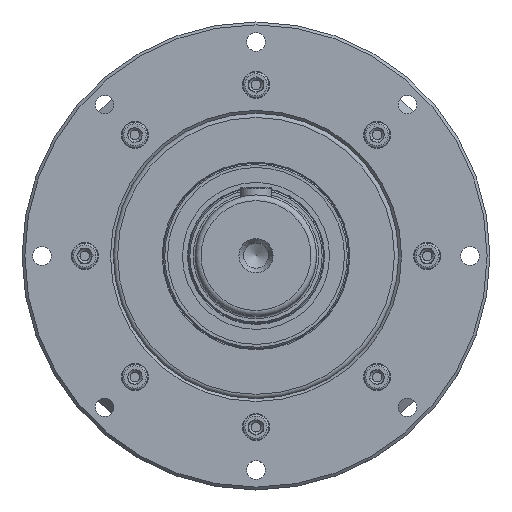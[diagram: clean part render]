
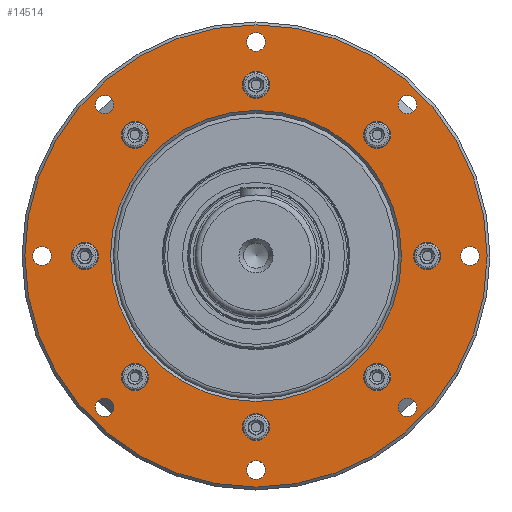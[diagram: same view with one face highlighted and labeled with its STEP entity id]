
A CAD part, top view. The second image highlights one B-rep face of the part: STEP entity #14514.
In plain terms, the highlighted planar face has unit normal (0, 0, 1).
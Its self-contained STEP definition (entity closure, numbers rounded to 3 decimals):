
#13652=CARTESIAN_POINT('',(-162.,0.,-14.));
#13653=VERTEX_POINT('',#13652);
#13654=CARTESIAN_POINT('',(0.0,0.,-14.));
#13655=DIRECTION('',(0.0,0.0,1.0));
#13656=DIRECTION('',(1.0,0.0,0.0));
#13657=AXIS2_PLACEMENT_3D('',#13654,#13655,#13656);
#13658=CIRCLE('',#13657,162.);
#13659=EDGE_CURVE('',#13653,#13653,#13658,.T.);
#13719=CARTESIAN_POINT('',(102.,0.,-14.));
#13720=VERTEX_POINT('',#13719);
#13721=CARTESIAN_POINT('',(0.0,0.,-14.));
#13722=DIRECTION('',(0.0,0.0,-1.0));
#13723=DIRECTION('',(1.0,0.0,0.0));
#13724=AXIS2_PLACEMENT_3D('',#13721,#13722,#13723);
#13725=CIRCLE('',#13724,102.);
#13726=EDGE_CURVE('',#13720,#13720,#13725,.T.);
#13775=CARTESIAN_POINT('',(9.5,120.0,-14.));
#13776=VERTEX_POINT('',#13775);
#13777=CARTESIAN_POINT('',(0.0,120.0,-14.));
#13778=DIRECTION('',(0.0,0.0,1.0));
#13779=DIRECTION('',(1.0,0.0,0.0));
#13780=AXIS2_PLACEMENT_3D('',#13777,#13778,#13779);
#13781=CIRCLE('',#13780,9.5);
#13782=EDGE_CURVE('',#13776,#13776,#13781,.T.);
#13831=CARTESIAN_POINT('',(9.5,-120.0,-14.));
#13832=VERTEX_POINT('',#13831);
#13833=CARTESIAN_POINT('',(0.0,-120.0,-14.));
#13834=DIRECTION('',(0.0,0.0,1.0));
#13835=DIRECTION('',(1.0,0.0,0.0));
#13836=AXIS2_PLACEMENT_3D('',#13833,#13834,#13835);
#13837=CIRCLE('',#13836,9.5);
#13838=EDGE_CURVE('',#13832,#13832,#13837,.T.);
#13887=CARTESIAN_POINT('',(94.353,84.853,-14.));
#13888=VERTEX_POINT('',#13887);
#13889=CARTESIAN_POINT('',(84.853,84.853,-14.));
#13890=DIRECTION('',(0.0,0.0,1.0));
#13891=DIRECTION('',(1.0,0.0,0.0));
#13892=AXIS2_PLACEMENT_3D('',#13889,#13890,#13891);
#13893=CIRCLE('',#13892,9.5);
#13894=EDGE_CURVE('',#13888,#13888,#13893,.T.);
#13943=CARTESIAN_POINT('',(-75.353,-84.853,-14.));
#13944=VERTEX_POINT('',#13943);
#13945=CARTESIAN_POINT('',(-84.853,-84.853,-14.));
#13946=DIRECTION('',(0.0,0.0,1.0));
#13947=DIRECTION('',(1.0,0.0,0.0));
#13948=AXIS2_PLACEMENT_3D('',#13945,#13946,#13947);
#13949=CIRCLE('',#13948,9.5);
#13950=EDGE_CURVE('',#13944,#13944,#13949,.T.);
#13999=CARTESIAN_POINT('',(129.5,0.,-14.));
#14000=VERTEX_POINT('',#13999);
#14001=CARTESIAN_POINT('',(120.0,0.,-14.));
#14002=DIRECTION('',(0.0,0.0,1.0));
#14003=DIRECTION('',(1.0,0.0,0.0));
#14004=AXIS2_PLACEMENT_3D('',#14001,#14002,#14003);
#14005=CIRCLE('',#14004,9.5);
#14006=EDGE_CURVE('',#14000,#14000,#14005,.T.);
#14055=CARTESIAN_POINT('',(-110.5,0.,-14.));
#14056=VERTEX_POINT('',#14055);
#14057=CARTESIAN_POINT('',(-120.0,0.,-14.));
#14058=DIRECTION('',(0.0,0.0,1.0));
#14059=DIRECTION('',(1.0,0.0,0.0));
#14060=AXIS2_PLACEMENT_3D('',#14057,#14058,#14059);
#14061=CIRCLE('',#14060,9.5);
#14062=EDGE_CURVE('',#14056,#14056,#14061,.T.);
#14111=CARTESIAN_POINT('',(94.353,-84.853,-14.));
#14112=VERTEX_POINT('',#14111);
#14113=CARTESIAN_POINT('',(84.853,-84.853,-14.));
#14114=DIRECTION('',(0.0,0.0,1.0));
#14115=DIRECTION('',(1.0,0.0,0.0));
#14116=AXIS2_PLACEMENT_3D('',#14113,#14114,#14115);
#14117=CIRCLE('',#14116,9.5);
#14118=EDGE_CURVE('',#14112,#14112,#14117,.T.);
#14167=CARTESIAN_POINT('',(-75.353,84.853,-14.));
#14168=VERTEX_POINT('',#14167);
#14169=CARTESIAN_POINT('',(-84.853,84.853,-14.));
#14170=DIRECTION('',(0.0,0.0,1.0));
#14171=DIRECTION('',(1.0,0.0,0.0));
#14172=AXIS2_PLACEMENT_3D('',#14169,#14170,#14171);
#14173=CIRCLE('',#14172,9.5);
#14174=EDGE_CURVE('',#14168,#14168,#14173,.T.);
#14223=CARTESIAN_POINT('',(6.5,150.,-14.));
#14224=VERTEX_POINT('',#14223);
#14225=CARTESIAN_POINT('',(0.0,150.,-14.));
#14226=DIRECTION('',(0.0,0.0,1.0));
#14227=DIRECTION('',(1.0,0.0,0.0));
#14228=AXIS2_PLACEMENT_3D('',#14225,#14226,#14227);
#14229=CIRCLE('',#14228,6.5);
#14230=EDGE_CURVE('',#14224,#14224,#14229,.T.);
#14251=CARTESIAN_POINT('',(6.5,-150.,-14.));
#14252=VERTEX_POINT('',#14251);
#14253=CARTESIAN_POINT('',(0.0,-150.,-14.));
#14254=DIRECTION('',(0.0,0.0,1.0));
#14255=DIRECTION('',(1.0,0.0,0.0));
#14256=AXIS2_PLACEMENT_3D('',#14253,#14254,#14255);
#14257=CIRCLE('',#14256,6.5);
#14258=EDGE_CURVE('',#14252,#14252,#14257,.T.);
#14279=CARTESIAN_POINT('',(112.566,106.066,-14.));
#14280=VERTEX_POINT('',#14279);
#14281=CARTESIAN_POINT('',(106.066,106.066,-14.));
#14282=DIRECTION('',(0.0,0.0,1.0));
#14283=DIRECTION('',(1.0,0.0,0.0));
#14284=AXIS2_PLACEMENT_3D('',#14281,#14282,#14283);
#14285=CIRCLE('',#14284,6.5);
#14286=EDGE_CURVE('',#14280,#14280,#14285,.T.);
#14307=CARTESIAN_POINT('',(-99.566,-106.066,-14.));
#14308=VERTEX_POINT('',#14307);
#14309=CARTESIAN_POINT('',(-106.066,-106.066,-14.));
#14310=DIRECTION('',(0.0,0.0,1.0));
#14311=DIRECTION('',(1.0,0.0,0.0));
#14312=AXIS2_PLACEMENT_3D('',#14309,#14310,#14311);
#14313=CIRCLE('',#14312,6.5);
#14314=EDGE_CURVE('',#14308,#14308,#14313,.T.);
#14335=CARTESIAN_POINT('',(156.5,0.,-14.));
#14336=VERTEX_POINT('',#14335);
#14337=CARTESIAN_POINT('',(150.0,0.,-14.));
#14338=DIRECTION('',(0.0,0.0,1.0));
#14339=DIRECTION('',(1.0,0.0,0.0));
#14340=AXIS2_PLACEMENT_3D('',#14337,#14338,#14339);
#14341=CIRCLE('',#14340,6.5);
#14342=EDGE_CURVE('',#14336,#14336,#14341,.T.);
#14363=CARTESIAN_POINT('',(-143.5,0.,-14.));
#14364=VERTEX_POINT('',#14363);
#14365=CARTESIAN_POINT('',(-150.,0.,-14.));
#14366=DIRECTION('',(0.0,0.0,1.0));
#14367=DIRECTION('',(1.0,0.0,0.0));
#14368=AXIS2_PLACEMENT_3D('',#14365,#14366,#14367);
#14369=CIRCLE('',#14368,6.5);
#14370=EDGE_CURVE('',#14364,#14364,#14369,.T.);
#14391=CARTESIAN_POINT('',(112.566,-106.066,-14.));
#14392=VERTEX_POINT('',#14391);
#14393=CARTESIAN_POINT('',(106.066,-106.066,-14.));
#14394=DIRECTION('',(0.0,0.0,1.0));
#14395=DIRECTION('',(1.0,0.0,0.0));
#14396=AXIS2_PLACEMENT_3D('',#14393,#14394,#14395);
#14397=CIRCLE('',#14396,6.5);
#14398=EDGE_CURVE('',#14392,#14392,#14397,.T.);
#14419=CARTESIAN_POINT('',(-99.566,106.066,-14.));
#14420=VERTEX_POINT('',#14419);
#14421=CARTESIAN_POINT('',(-106.066,106.066,-14.));
#14422=DIRECTION('',(0.0,0.0,1.0));
#14423=DIRECTION('',(1.0,0.0,0.0));
#14424=AXIS2_PLACEMENT_3D('',#14421,#14422,#14423);
#14425=CIRCLE('',#14424,6.5);
#14426=EDGE_CURVE('',#14420,#14420,#14425,.T.);
#14455=CARTESIAN_POINT('',(0.0,0.,-14.));
#14456=DIRECTION('',(0.0,0.0,1.0));
#14457=DIRECTION('',(1.0,0.0,0.0));
#14458=AXIS2_PLACEMENT_3D('',#14455,#14456,#14457);
#14459=PLANE('',#14458);
#14460=ORIENTED_EDGE('',*,*,#13659,.T.);
#14461=EDGE_LOOP('',(#14460));
#14462=FACE_OUTER_BOUND('',#14461,.T.);
#14463=ORIENTED_EDGE('',*,*,#13726,.T.);
#14464=EDGE_LOOP('',(#14463));
#14465=FACE_BOUND('',#14464,.T.);
#14466=ORIENTED_EDGE('',*,*,#13782,.F.);
#14467=EDGE_LOOP('',(#14466));
#14468=FACE_BOUND('',#14467,.T.);
#14469=ORIENTED_EDGE('',*,*,#13838,.F.);
#14470=EDGE_LOOP('',(#14469));
#14471=FACE_BOUND('',#14470,.T.);
#14472=ORIENTED_EDGE('',*,*,#13894,.F.);
#14473=EDGE_LOOP('',(#14472));
#14474=FACE_BOUND('',#14473,.T.);
#14475=ORIENTED_EDGE('',*,*,#13950,.F.);
#14476=EDGE_LOOP('',(#14475));
#14477=FACE_BOUND('',#14476,.T.);
#14478=ORIENTED_EDGE('',*,*,#14006,.F.);
#14479=EDGE_LOOP('',(#14478));
#14480=FACE_BOUND('',#14479,.T.);
#14481=ORIENTED_EDGE('',*,*,#14062,.F.);
#14482=EDGE_LOOP('',(#14481));
#14483=FACE_BOUND('',#14482,.T.);
#14484=ORIENTED_EDGE('',*,*,#14118,.F.);
#14485=EDGE_LOOP('',(#14484));
#14486=FACE_BOUND('',#14485,.T.);
#14487=ORIENTED_EDGE('',*,*,#14174,.F.);
#14488=EDGE_LOOP('',(#14487));
#14489=FACE_BOUND('',#14488,.T.);
#14490=ORIENTED_EDGE('',*,*,#14230,.F.);
#14491=EDGE_LOOP('',(#14490));
#14492=FACE_BOUND('',#14491,.T.);
#14493=ORIENTED_EDGE('',*,*,#14258,.F.);
#14494=EDGE_LOOP('',(#14493));
#14495=FACE_BOUND('',#14494,.T.);
#14496=ORIENTED_EDGE('',*,*,#14286,.F.);
#14497=EDGE_LOOP('',(#14496));
#14498=FACE_BOUND('',#14497,.T.);
#14499=ORIENTED_EDGE('',*,*,#14314,.F.);
#14500=EDGE_LOOP('',(#14499));
#14501=FACE_BOUND('',#14500,.T.);
#14502=ORIENTED_EDGE('',*,*,#14342,.F.);
#14503=EDGE_LOOP('',(#14502));
#14504=FACE_BOUND('',#14503,.T.);
#14505=ORIENTED_EDGE('',*,*,#14370,.F.);
#14506=EDGE_LOOP('',(#14505));
#14507=FACE_BOUND('',#14506,.T.);
#14508=ORIENTED_EDGE('',*,*,#14398,.F.);
#14509=EDGE_LOOP('',(#14508));
#14510=FACE_BOUND('',#14509,.T.);
#14511=ORIENTED_EDGE('',*,*,#14426,.F.);
#14512=EDGE_LOOP('',(#14511));
#14513=FACE_BOUND('',#14512,.T.);
#14514=ADVANCED_FACE('',(#14462,#14465,#14468,#14471,#14474,#14477,#14480,#14483,#14486,#14489,#14492,#14495,#14498,#14501,#14504,#14507,#14510,#14513),#14459,.T.);
